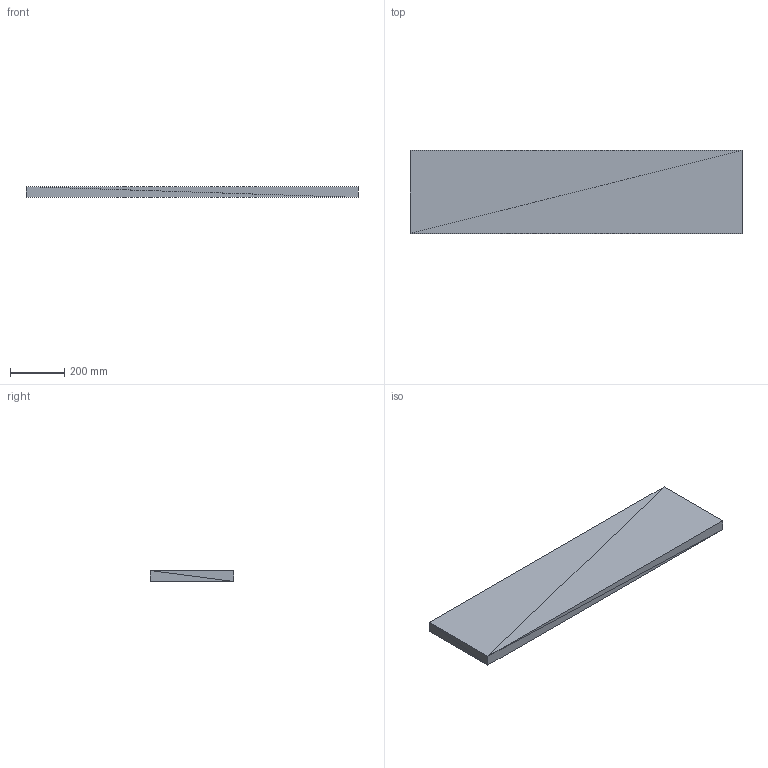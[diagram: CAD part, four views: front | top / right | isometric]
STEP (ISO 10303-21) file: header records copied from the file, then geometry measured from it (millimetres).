
FILE_DESCRIPTION(('ISINAC STEP AP214'),'2;1');
FILE_NAME('ISINAC_R.1220.305_40mm_ADHESIVO','2026-05-03T10:49:19',('ISINAC'),('www.isinac.com'),'ISINAC BIM Generator 1.0','','');
FILE_SCHEMA(('AUTOMOTIVE_DESIGN'));
Length unit declared in the file: millimetre
Products named in the file (1): ISINAC_R.1220.305_40mm_ADHESIVO
Bounding box: 1220 x 305 x 40 mm (x, y, z)
Surface area: 866200 mm2 (no closed solid volume)
Topology: 0 solids, 12 shells, 12 faces, 36 edges, 36 vertices
Faces by surface type: plane 12
Entity records: 145 total; most frequent: CARTESIAN_POINT 48, DIRECTION 24, POLY_LOOP 12, FACE_OUTER_BOUND 12, AXIS2_PLACEMENT_3D 12, PLANE 12, FACE_SURFACE 12, CLOSED_SHELL 1
